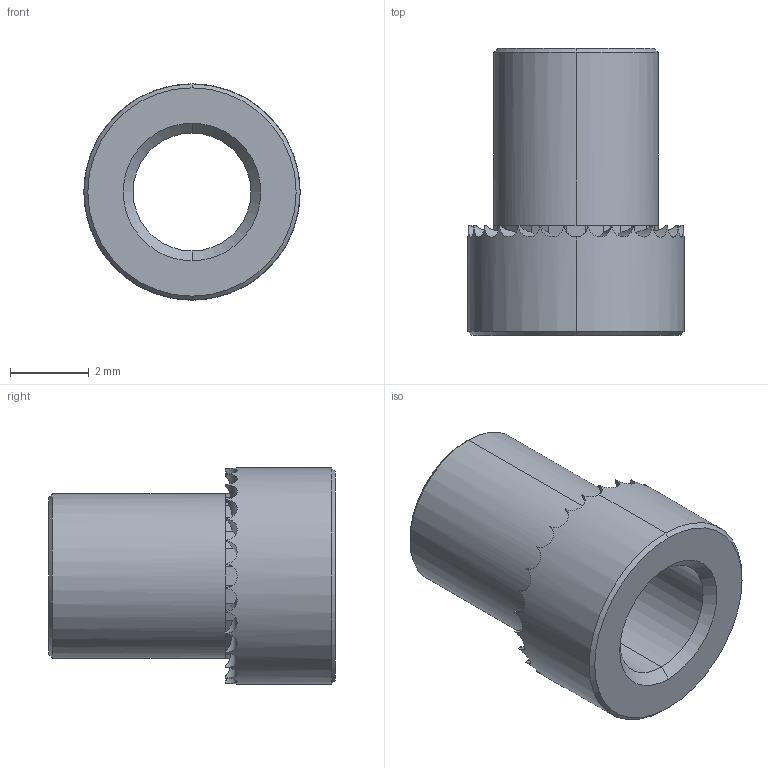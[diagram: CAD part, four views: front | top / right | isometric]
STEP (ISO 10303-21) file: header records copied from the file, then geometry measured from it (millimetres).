
FILE_DESCRIPTION (( 'STEP AP203' ), '1' );
FILE_NAME ('P0829.030-08G-ZP.step', '2019-03-21T22:14:16', ( '' ), ( '' ), 'SwSTEP 2.0', 'SolidWorks 2017', '' );
FILE_SCHEMA (( 'CONFIG_CONTROL_DESIGN' ));
Length unit declared in the file: millimetre
Products named in the file (1): P0829.030-08G-ZP
Bounding box: 5.5 x 7.3 x 5.5 mm (x, y, z)
Volume: 73.7 mm3; surface area: 207.9 mm2
Topology: 1 solids, 1 shells, 128 faces, 312 edges, 186 vertices
Faces by surface type: plane 86, cylinder 34, cone 8
Entity records: 3963 total; most frequent: CARTESIAN_POINT 965, ORIENTED_EDGE 624, DIRECTION 612, EDGE_CURVE 312, AXIS2_PLACEMENT_3D 229, VERTEX_POINT 186, VECTOR 154, LINE 154
